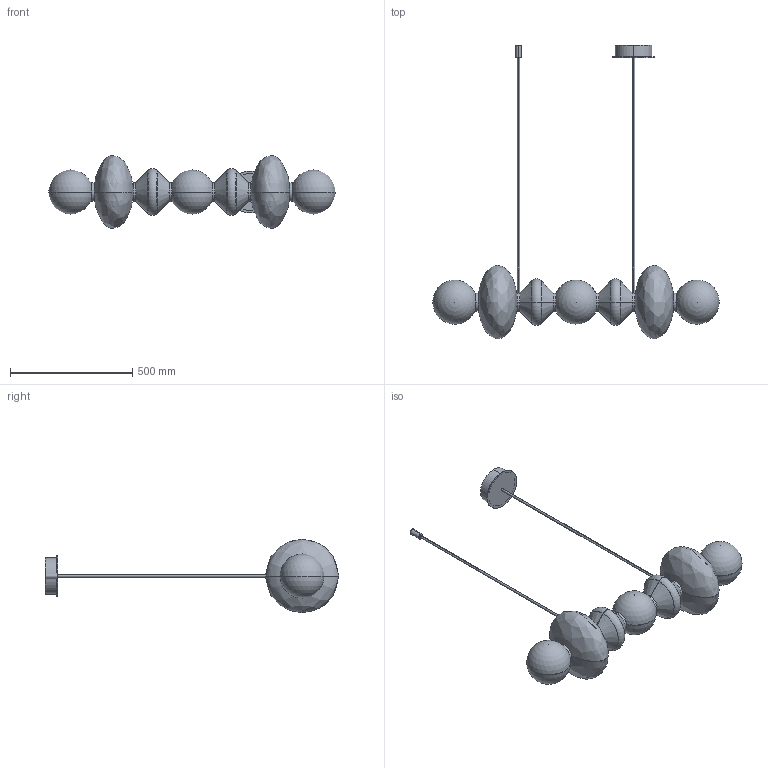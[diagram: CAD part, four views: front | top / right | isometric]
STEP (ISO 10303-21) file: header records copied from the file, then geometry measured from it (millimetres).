
FILE_DESCRIPTION (( 'STEP AP214' ), '1' );
FILE_NAME ('MAPI_CU1235.STEP', '2026-06-08T15:06:19', ( '' ), ( '' ), 'SwSTEP 2.0', 'SolidWorks 2023', '' );
FILE_SCHEMA (( 'AUTOMOTIVE_DESIGN' ));
Length unit declared in the file: inch
Products named in the file (1): MAPI_CU1235
Bounding box: 1170.95 x 1199.94 x 300 mm (x, y, z)
Volume: 4043673.4 mm3; surface area: 1991410.7 mm2
Topology: 19 solids, 19 shells, 159 faces, 354 edges, 230 vertices
Faces by surface type: cylinder 60, plane 43, bspline 20, cone 16, sphere 12, torus 8
Entity records: 21895 total; most frequent: CARTESIAN_POINT 18208, DIRECTION 780, ORIENTED_EDGE 648, AXIS2_PLACEMENT_3D 344, EDGE_CURVE 324, VERTEX_POINT 212, CIRCLE 204, EDGE_LOOP 190
